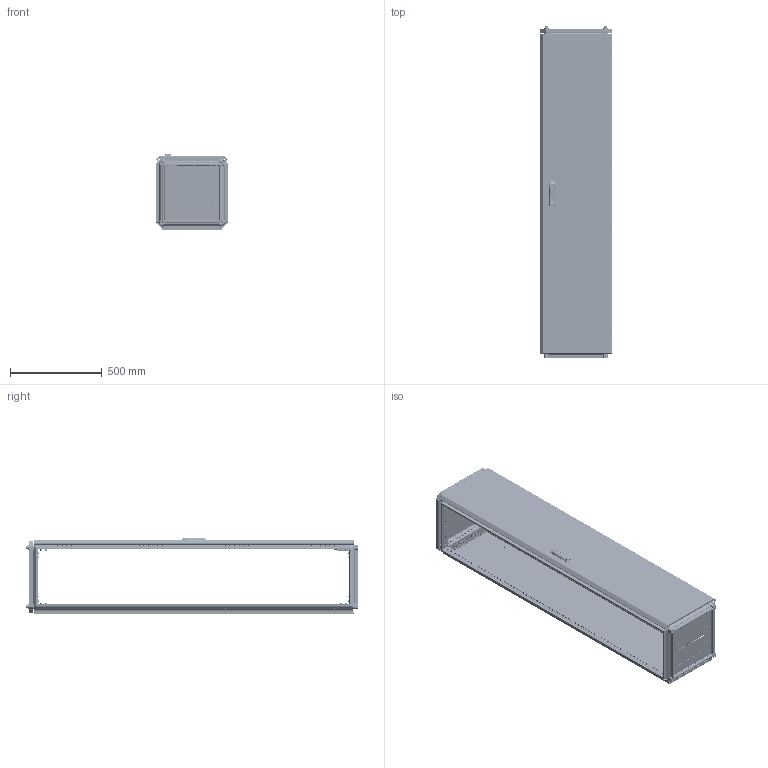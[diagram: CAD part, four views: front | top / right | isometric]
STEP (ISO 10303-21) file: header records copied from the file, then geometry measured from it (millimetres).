
FILE_DESCRIPTION (( 'STEP AP203' ), '1' );
FILE_NAME ('MA1.000.040418.10.00 AleSta1844 Øêàô AleSta 400õ400õ1800.STEP', '2024-08-23T07:27:50', ( '' ), ( '' ), 'SwSTEP 2.0', 'SolidWorks 2021', '' );
FILE_SCHEMA (( 'CONFIG_CONTROL_DESIGN' ));
Length unit declared in the file: millimetre
Products named in the file (49): MA1.200.060620.31.05 Óãëîâîé óïîð äâåðíîé òÿãè; MA1.200.060620.31.01 Ïîëîòíî äâåðè ñïëîøíîé 2000õ600_1800å400; 7380-2 ISO Âèíòû ñ ïîëóêðóãëîé ãîëîâêîé ñ ôëàíöåì ñ âíóòðåííèì øåñòèãðàííèêîì Ì4õ10; Íàâåñêà íà êîðïóñ ïîä êëåïêó; 諘蜱齁罻 022 瀁錒瀔隮; êðåïëåíèå_êðóãëîé_òÿãè_RG1020-1.stp; Âèíò_ðåçüáîâûäàâëèâàþùèé_Ì5õ12_DIN 7500E_Œ5å12; Øïèëüêà Ì6õ12_˜¯¨«ìª  Œ6å16; MA1.101.060620.20.02 Çàêðûòèå íèæíåé ïàíåëè 600õ600_400å400; MA1.200.060620.31.03 Ðåéêà íà äâåðü ãîðèçîíòàëüíàÿ Ø = 600_˜=400; Ãàéêà ñàìîêîíòðÿùàÿñÿ ñ íåéëîíîâîé âñòàâêîé Ì6 DIN 985, êëàññ ïðî÷íîñòè 8, îöèíêîâàííàÿ ñòàëü_Œ5; Óïëîòíèòåëü ïàíåëè íèæíåé_  ‚=1800; Îñü ïåòëè 4õ52_‚¨­â A.M4x0,5x40 ƒŽ‘’ 11644-75; MA1.200.060620.31.02 Ðåéêà íà äâåðü âåðòèêàëüíàÿ Â = 2000_‚=1800; MA1.102.060620.00.01 Ïðîôèëü âåðòèêàëüíûé ñâàðíîé_03 L=1698 (‚=1800); Ãàéêà ñàìîêîíòðÿùàÿñÿ ñ íåéëîíîâîé âñòàâêîé Ì6 DIN 985, êëàññ ïðî÷íîñòè 8, îöèíêîâàííàÿ ñòàëü_Œ6; Øïèëüêà Ì6õ12_˜¯¨«ìª  Œ6å12; Áîëò øåñòèãðàííûé Ì5õ12 DIN 933, êëàññ ïðî÷íîñòè 8.8, îöèíêîâàííàÿ ñòàëü; MA1.101.060620.00.00 AleSta-RB66 Êîìïëåêò êðûøà è îñíîâàíèå_  400å400; Âèíò_ðåçüáîâûäàâëèâàþùèé_Ì5õ12_DIN 7500E_00; äåðæàòåëü_êðóãëîé_òÿãèRG002-RG1010-2-i-RG1010-3-.stp; Âèíò ðåçüáîâûäàâëèâàþùèé Ì6õ12 DIN 7500E_Œ6å10; MA1.101.060620.20.00 Íèæíÿÿ ïàíåëü 600õ600_400å400; MA1.200.060620.31.04 ðèãåëü çàìêà äâåðè; Âèíò ñàìîíàðåçàþùèé ñ ïîòàéíîé ãîëîâêîé Ì5x14 DIN 7500 M TORX, êëàññ ïðî÷íîñòè 8.8, îöèíêîâàííàÿ ñòàëü_Œ5å14; MS463-2-3(1); MA1.101.060620.00.02 Ïðîôèëü ïîïåðå÷íûé ñâàðíîé_00 L=298 (˜=400); MA1.200.060620.30.00 AleSta-D20M600 Äâåðü ñïëîøíàÿ äëÿ øêàôîâ ALESTA ÂõØ 2000õ600_1800å400; Ïåòëÿ íà äâåðü ï-îáðàçíàÿ; ﾘ琺矜 65ﾃ 019 ﾃﾎﾑﾒ 6402-70_12; MA1.101.060620.10.00 Êðûøà 600x600_400å400; MA1.102.060620.00.00 AleSta-VG2000 Ñòîéêè âåðòèêàëüíûå, Â=2000ìì  (4øò)_  400å400; MA1.100.060620.00.01 Ñîåäèíèòåëü óãëîâîé_00; MA1.000.040418.10.00 AleSta1844 Øêàô AleSta 400õ400õ1800; Âèíò ñ âí. øåñòèãðàííèêîì M12 DIN912_•30; Øàéáà ñòîïîðíàÿ ñ íàðóæíûìè çóáöàìè SCHNORR, òèï VS öèíêîâûå õëîïüÿ Ì6 O6,4 ART 88121_Œ6; MA1.200.060620.31.00 Äâåðü ñïëîøíàÿ äëÿ øêàôîâ ALESTA ÂõØ 2000õ600_1800å400; MA1.200.060620.10.00 AleSta-PR206  Ïàíåëü çàäíÿÿ, äëÿ øêàôîâ ALESTA, 2000 x 600_1800å400; MA1.101.060620.20.01 Ïîëîòíî íèæíåé ïàíåëè 600õ600_400å400; MA1.200.060620.11.01 Ïîëîòíî çàäíåé ïàíåëè 2000õ600_1800å400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
Assembly tree (337 placements, depth 4):
  MA1.000.040418.10.00 AleSta1844 Øêàô AleSta 400õ400õ1800
    MA1.101.060620.00.00 AleSta-RB66 Êîìïëåêò êðûøà è îñíîâàíèå_  400å400
      MA1.101.060620.00.02 Ïðîôèëü ïîïåðå÷íûé ñâàðíîé_00 L=298 (˜=400)  x8
      MA1.101.060620.10.00 Êðûøà 600x600_400å400
        MA1.101.060620.10.01 Ïîëîòíî êðûøè 600õ600_400å400
        Øïèëüêà Ì6õ12_˜¯¨«ìª  Œ6å12  x4
        Óïëîòíèòåëü ïàíåëè íèæíåé_400å400
      MA1.101.060620.20.00 Íèæíÿÿ ïàíåëü 600õ600_400å400
        MA1.101.060620.20.01 Ïîëîòíî íèæíåé ïàíåëè 600õ600_400å400
        ﾇﾀﾊﾋﾅﾏﾊﾀ ﾃﾀﾅﾗﾍﾀﾟ ﾘﾅﾑﾒﾈﾃﾐﾀﾍﾍﾀﾟ ﾑ ﾓﾌﾅﾍﾜﾘﾅﾍﾍﾛﾌ ﾁﾎﾐﾒﾎﾌ M4 X 11 (0.5-2.5 ﾌﾌ) HEX U-S ﾖﾈﾍﾊ  x4
        MA1.101.060620.20.02 Çàêðûòèå íèæíåé ïàíåëè 600õ600_400å400  x2
        7380-2 ISO Âèíòû ñ ïîëóêðóãëîé ãîëîâêîé ñ ôëàíöåì ñ âíóòðåííèì øåñòèãðàííèêîì Ì4õ10  x4
      Âèíò_ðåçüáîâûäàâëèâàþùèé_Ì5õ12_DIN 7500E_Œ5å12  x8
      MA1.100.060620.00.01 Ñîåäèíèòåëü óãëîâîé_00  x8
      Âèíò ñ âí. øåñòèãðàííèêîì M12 DIN912_•30  x4
      Âèíò ðåçüáîâûäàâëèâàþùèé Ì6õ12 DIN 7500E_Œ6å10  x96
      ﾘ琺矜 01.019 ﾃﾎﾑﾒ11371-78_12  x4
      ﾘ琺矜 65ﾃ 019 ﾃﾎﾑﾒ 6402-70_12  x4
      Øàéáà ñòîïîðíàÿ ñ íàðóæíûìè çóáöàìè SCHNORR, òèï VS öèíêîâûå õëîïüÿ Ì6 O6,4 ART 88121_Œ6  x80
    MA1.102.060620.00.00 AleSta-VG2000 Ñòîéêè âåðòèêàëüíûå, Â=2000ìì  (4øò)_  400å400
      MA1.102.060620.00.01 Ïðîôèëü âåðòèêàëüíûé ñâàðíîé_03 L=1698 (‚=1800)  x4
    MA1.200.060620.10.00 AleSta-PR206  Ïàíåëü çàäíÿÿ, äëÿ øêàôîâ ALESTA, 2000 x 600_1800å400
      MA1.200.060620.11.00 Ïàíåëü çàäíÿÿ, äëÿ øêàôîâ AleSta, 2000x600_1800å400
        MA1.200.060620.11.01 Ïîëîòíî çàäíåé ïàíåëè 2000õ600_1800å400
        Óïëîòíèòåëü ïàíåëè íèæíåé_  ‚=1800
        Øïèëüêà Ì6õ12_˜¯¨«ìª  Œ6å12  x4
      Âèíò ñàìîíàðåçàþùèé ñ ïîòàéíîé ãîëîâêîé Ì5x14 DIN 7500 M TORX, êëàññ ïðî÷íîñòè 8.8, îöèíêîâàííàÿ ñòàëü_Œ5å14  x8
    MA1.200.060620.30.00 AleSta-D20M600 Äâåðü ñïëîøíàÿ äëÿ øêàôîâ ALESTA ÂõØ 2000õ600_1800å400
      MA1.200.060620.31.00 Äâåðü ñïëîøíàÿ äëÿ øêàôîâ ALESTA ÂõØ 2000õ600_1800å400
        MA1.200.060620.31.01 Ïîëîòíî äâåðè ñïëîøíîé 2000õ600_1800å400
        Óïëîòíèòåëü ïàíåëè íèæíåé_  ‚=1800
        Øïèëüêà Ì6õ12_˜¯¨«ìª  Œ6å20  x16
        Øïèëüêà Ì6õ12_˜¯¨«ìª  Œ6å16  x4
        Ïåòëÿ íà äâåðü ï-îáðàçíàÿ  x4
      MA1.200.060620.31.03 Ðåéêà íà äâåðü ãîðèçîíòàëüíàÿ Ø = 600_˜=400  x2
      諘蜱齁罻 022 瀁錒瀔隮  x4
      MA1.200.060620.31.02 Ðåéêà íà äâåðü âåðòèêàëüíàÿ Â = 2000_‚=1800  x2
      äåðæàòåëü_êðóãëîé_òÿãèRG002-RG1010-2-i-RG1010-3-.stp  x2
      òÿãà_lg001-2.STEP_‚ =1800  x2
      êðåïëåíèå_êðóãëîé_òÿãè_RG1020-1.stp  x2
      MS463-2-3(1)
      Ãàéêà ñàìîêîíòðÿùàÿñÿ ñ íåéëîíîâîé âñòàâêîé Ì6 DIN 985, êëàññ ïðî÷íîñòè 8, îöèíêîâàííàÿ ñòàëü_Œ6  x16
      Ãàéêà ñàìîêîíòðÿùàÿñÿ ñ íåéëîíîâîé âñòàâêîé Ì6 DIN 985, êëàññ ïðî÷íîñòè 8, îöèíêîâàííàÿ ñòàëü_Œ5  x2
      Áîëò øåñòèãðàííûé Ì5õ12 DIN 933, êëàññ ïðî÷íîñòè 8.8, îöèíêîâàííàÿ ñòàëü  x2
      MA1.200.060620.31.04 ðèãåëü çàìêà äâåðè
      MA1.200.060620.31.05 Óãëîâîé óïîð äâåðíîé òÿãè  x2
      Âèíò_ðåçüáîâûäàâëèâàþùèé_Ì5õ12_DIN 7500E_00  x2
      Íàâåñêà íà êîðïóñ ïîä êëåïêó  x4
      Îñü ïåòëè 4õ52_‚¨­â A.M4x0,5x40 ƒŽ‘’ 11644-75  x4
      Âèíò ñàìîíàðåçàþùèé ñ ïîòàéíîé ãîëîâêîé Ì5x14 DIN 7500 M TORX, êëàññ ïðî÷íîñòè 8.8, îöèíêîâàííàÿ ñòàëü_Œ5å12  x8
  Ïðîáêà ïëàñòèêîâàÿ óíèâåðñàëüíàÿ ïîä îòâåðñòèå 4,5 ìì, ñåðèÿ ST, öâåò áåñöâåòíûé – ST4,5
Bounding box: 392 x 1810.9 x 416.8 mm (x, y, z)
Volume: 6708831.4 mm3; surface area: 7913802.5 mm2
Topology: 364 solids, 378 shells, 22603 faces, 57846 edges, 36072 vertices
Faces by surface type: plane 13481, cylinder 6429, bspline 921, cone 845, torus 829, sphere 98
Entity records: 231517 total; most frequent: CARTESIAN_POINT 76947, ORIENTED_EDGE 29406, DIRECTION 28882, EDGE_CURVE 14720, AXIS2_PLACEMENT_3D 9980, VERTEX_POINT 9153, VECTOR 8922, LINE 8922
